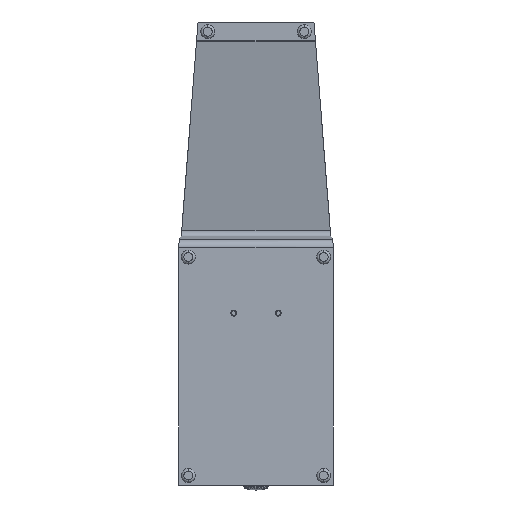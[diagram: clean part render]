
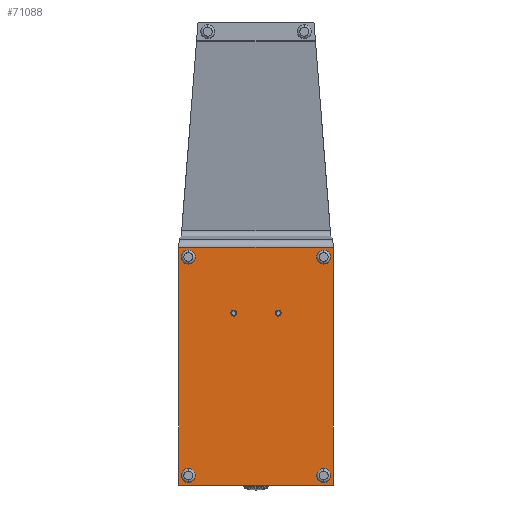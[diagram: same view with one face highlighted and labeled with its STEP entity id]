
A CAD part, front view. The second image highlights one B-rep face of the part: STEP entity #71088.
In plain terms, the highlighted planar face has unit normal (0, -1, 0).
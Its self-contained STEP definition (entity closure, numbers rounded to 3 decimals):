
#22602=DIRECTION('',(0.077,0.,-0.997));
#22603=VECTOR('',#22602,1.003);
#22604=CARTESIAN_POINT('',(79.923,-6.5,115.5));
#22605=LINE('',#22604,#22603);
#22609=DIRECTION('',(0.,0.,-1.));
#22610=VECTOR('',#22609,245.);
#22611=CARTESIAN_POINT('',(80.,-6.5,114.5));
#22612=LINE('',#22611,#22610);
#22616=DIRECTION('',(-1.,0.,0.));
#22617=VECTOR('',#22616,160.);
#22618=CARTESIAN_POINT('',(80.,-6.5,-130.5));
#22619=LINE('',#22618,#22617);
#22623=DIRECTION('',(0.,0.,1.));
#22624=VECTOR('',#22623,245.);
#22625=CARTESIAN_POINT('',(-80.,-6.5,-130.5));
#22626=LINE('',#22625,#22624);
#22630=DIRECTION('',(0.077,0.,0.997));
#22631=VECTOR('',#22630,1.003);
#22632=CARTESIAN_POINT('',(-80.,-6.5,114.5));
#22633=LINE('',#22632,#22631);
#22637=CARTESIAN_POINT('',(70.,-6.5,-120.5));
#22638=DIRECTION('',(0.,-1.,0.));
#22639=DIRECTION('',(0.,0.,-1.));
#22640=AXIS2_PLACEMENT_3D('',#22637,#22638,#22639);
#22645=CARTESIAN_POINT('',(70.,-6.5,-120.5));
#22646=DIRECTION('',(0.,-1.,0.));
#22647=DIRECTION('',(0.,0.,1.));
#22648=AXIS2_PLACEMENT_3D('',#22645,#22646,#22647);
#22653=CARTESIAN_POINT('',(-70.,-6.5,-120.5));
#22654=DIRECTION('',(0.,-1.,0.));
#22655=DIRECTION('',(0.,0.,-1.));
#22656=AXIS2_PLACEMENT_3D('',#22653,#22654,#22655);
#22661=CARTESIAN_POINT('',(-70.,-6.5,-120.5));
#22662=DIRECTION('',(0.,-1.,0.));
#22663=DIRECTION('',(0.,0.,1.));
#22664=AXIS2_PLACEMENT_3D('',#22661,#22662,#22663);
#22669=CARTESIAN_POINT('',(70.,-6.5,105.5));
#22670=DIRECTION('',(0.,-1.,0.));
#22671=DIRECTION('',(0.,0.,-1.));
#22672=AXIS2_PLACEMENT_3D('',#22669,#22670,#22671);
#22677=CARTESIAN_POINT('',(70.,-6.5,105.5));
#22678=DIRECTION('',(0.,-1.,0.));
#22679=DIRECTION('',(0.,0.,1.));
#22680=AXIS2_PLACEMENT_3D('',#22677,#22678,#22679);
#22685=CARTESIAN_POINT('',(-70.,-6.5,105.5));
#22686=DIRECTION('',(0.,-1.,0.));
#22687=DIRECTION('',(0.,0.,-1.));
#22688=AXIS2_PLACEMENT_3D('',#22685,#22686,#22687);
#22693=CARTESIAN_POINT('',(-70.,-6.5,105.5));
#22694=DIRECTION('',(0.,-1.,0.));
#22695=DIRECTION('',(0.,0.,1.));
#22696=AXIS2_PLACEMENT_3D('',#22693,#22694,#22695);
#22701=DIRECTION('',(1.,0.,0.));
#22702=VECTOR('',#22701,159.846);
#22703=CARTESIAN_POINT('',(-79.923,-6.5,115.5));
#22704=LINE('',#22703,#22702);
#25488=CARTESIAN_POINT('',(23.,-6.5,47.5));
#25489=DIRECTION('',(0.,1.,0.));
#25490=DIRECTION('',(1.,0.,0.));
#25491=AXIS2_PLACEMENT_3D('',#25488,#25489,#25490);
#25496=CARTESIAN_POINT('',(23.,-6.5,47.5));
#25497=DIRECTION('',(0.,1.,0.));
#25498=DIRECTION('',(-1.,0.,0.));
#25499=AXIS2_PLACEMENT_3D('',#25496,#25497,#25498);
#25564=CARTESIAN_POINT('',(-23.,-6.5,47.5));
#25565=DIRECTION('',(0.,1.,0.));
#25566=DIRECTION('',(1.,0.,0.));
#25567=AXIS2_PLACEMENT_3D('',#25564,#25565,#25566);
#25572=CARTESIAN_POINT('',(-23.,-6.5,47.5));
#25573=DIRECTION('',(0.,1.,0.));
#25574=DIRECTION('',(-1.,0.,0.));
#25575=AXIS2_PLACEMENT_3D('',#25572,#25573,#25574);
#44915=CARTESIAN_POINT('',(80.,-6.5,-130.5));
#44916=CARTESIAN_POINT('',(-80.,-6.5,-130.5));
#44917=VERTEX_POINT('',#44915);
#44918=VERTEX_POINT('',#44916);
#44919=CARTESIAN_POINT('',(-80.,-6.5,114.5));
#44920=VERTEX_POINT('',#44919);
#44925=CARTESIAN_POINT('',(80.,-6.5,114.5));
#44926=VERTEX_POINT('',#44925);
#44979=CARTESIAN_POINT('',(-79.923,-6.5,115.5));
#44980=VERTEX_POINT('',#44979);
#44981=CARTESIAN_POINT('',(79.923,-6.5,115.5));
#44982=VERTEX_POINT('',#44981);
#45003=CARTESIAN_POINT('',(26.,-6.5,47.5));
#45004=CARTESIAN_POINT('',(20.,-6.5,47.5));
#45005=VERTEX_POINT('',#45003);
#45006=VERTEX_POINT('',#45004);
#45011=CARTESIAN_POINT('',(-20.,-6.5,47.5));
#45012=CARTESIAN_POINT('',(-26.,-6.5,47.5));
#45013=VERTEX_POINT('',#45011);
#45014=VERTEX_POINT('',#45012);
#45415=CARTESIAN_POINT('',(70.,-6.5,-127.7));
#45416=CARTESIAN_POINT('',(70.,-6.5,-113.3));
#45417=VERTEX_POINT('',#45415);
#45418=VERTEX_POINT('',#45416);
#45435=CARTESIAN_POINT('',(-70.,-6.5,-127.7));
#45436=CARTESIAN_POINT('',(-70.,-6.5,-113.3));
#45437=VERTEX_POINT('',#45435);
#45438=VERTEX_POINT('',#45436);
#45455=CARTESIAN_POINT('',(70.,-6.5,98.3));
#45456=CARTESIAN_POINT('',(70.,-6.5,112.7));
#45457=VERTEX_POINT('',#45455);
#45458=VERTEX_POINT('',#45456);
#45475=CARTESIAN_POINT('',(-70.,-6.5,98.3));
#45476=CARTESIAN_POINT('',(-70.,-6.5,112.7));
#45477=VERTEX_POINT('',#45475);
#45478=VERTEX_POINT('',#45476);
#71035=CARTESIAN_POINT('',(0.,-6.5,114.5));
#71036=DIRECTION('',(0.,1.,0.));
#71037=DIRECTION('',(0.,0.,1.));
#71038=AXIS2_PLACEMENT_3D('',#71035,#71036,#71037);
#71039=PLANE('',#71038);
#71041=ORIENTED_EDGE('',*,*,#71040,.T.);
#71042=ORIENTED_EDGE('',*,*,#71002,.T.);
#71043=ORIENTED_EDGE('',*,*,#71019,.T.);
#71045=ORIENTED_EDGE('',*,*,#71044,.T.);
#71047=ORIENTED_EDGE('',*,*,#71046,.T.);
#71049=ORIENTED_EDGE('',*,*,#71048,.T.);
#71050=EDGE_LOOP('',(#71041,#71042,#71043,#71045,#71047,#71049));
#71051=FACE_OUTER_BOUND('',#71050,.F.);
#71053=ORIENTED_EDGE('',*,*,#71052,.F.);
#71055=ORIENTED_EDGE('',*,*,#71054,.F.);
#71056=EDGE_LOOP('',(#71053,#71055));
#71057=FACE_BOUND('',#71056,.F.);
#71059=ORIENTED_EDGE('',*,*,#71058,.F.);
#71061=ORIENTED_EDGE('',*,*,#71060,.F.);
#71062=EDGE_LOOP('',(#71059,#71061));
#71063=FACE_BOUND('',#71062,.F.);
#71065=ORIENTED_EDGE('',*,*,#71064,.T.);
#71067=ORIENTED_EDGE('',*,*,#71066,.T.);
#71068=EDGE_LOOP('',(#71065,#71067));
#71069=FACE_BOUND('',#71068,.F.);
#71071=ORIENTED_EDGE('',*,*,#71070,.T.);
#71073=ORIENTED_EDGE('',*,*,#71072,.T.);
#71074=EDGE_LOOP('',(#71071,#71073));
#71075=FACE_BOUND('',#71074,.F.);
#71077=ORIENTED_EDGE('',*,*,#71076,.T.);
#71079=ORIENTED_EDGE('',*,*,#71078,.T.);
#71080=EDGE_LOOP('',(#71077,#71079));
#71081=FACE_BOUND('',#71080,.F.);
#71083=ORIENTED_EDGE('',*,*,#71082,.T.);
#71085=ORIENTED_EDGE('',*,*,#71084,.T.);
#71086=EDGE_LOOP('',(#71083,#71085));
#71087=FACE_BOUND('',#71086,.F.);
#22641=CIRCLE('',#22640,7.2);
#22649=CIRCLE('',#22648,7.2);
#22657=CIRCLE('',#22656,7.2);
#22665=CIRCLE('',#22664,7.2);
#22673=CIRCLE('',#22672,7.2);
#22681=CIRCLE('',#22680,7.2);
#22689=CIRCLE('',#22688,7.2);
#22697=CIRCLE('',#22696,7.2);
#25492=CIRCLE('',#25491,3.);
#25500=CIRCLE('',#25499,3.);
#25568=CIRCLE('',#25567,3.);
#25576=CIRCLE('',#25575,3.);
#71002=EDGE_CURVE('',#44982,#44926,#22605,.T.);
#71019=EDGE_CURVE('',#44926,#44917,#22612,.T.);
#71040=EDGE_CURVE('',#44980,#44982,#22704,.T.);
#71044=EDGE_CURVE('',#44917,#44918,#22619,.T.);
#71046=EDGE_CURVE('',#44918,#44920,#22626,.T.);
#71048=EDGE_CURVE('',#44920,#44980,#22633,.T.);
#71052=EDGE_CURVE('',#45005,#45006,#25492,.T.);
#71054=EDGE_CURVE('',#45006,#45005,#25500,.T.);
#71058=EDGE_CURVE('',#45013,#45014,#25568,.T.);
#71060=EDGE_CURVE('',#45014,#45013,#25576,.T.);
#71064=EDGE_CURVE('',#45417,#45418,#22641,.T.);
#71066=EDGE_CURVE('',#45418,#45417,#22649,.T.);
#71070=EDGE_CURVE('',#45437,#45438,#22657,.T.);
#71072=EDGE_CURVE('',#45438,#45437,#22665,.T.);
#71076=EDGE_CURVE('',#45457,#45458,#22673,.T.);
#71078=EDGE_CURVE('',#45458,#45457,#22681,.T.);
#71082=EDGE_CURVE('',#45477,#45478,#22689,.T.);
#71084=EDGE_CURVE('',#45478,#45477,#22697,.T.);
#71088=ADVANCED_FACE('',(#71051,#71057,#71063,#71069,#71075,#71081,#71087),
#71039,.F.);
